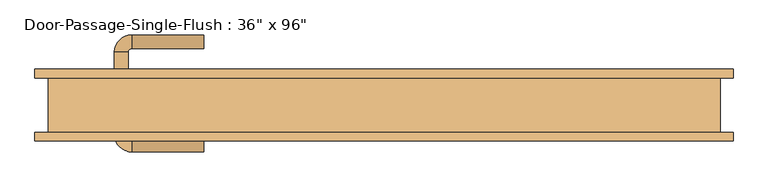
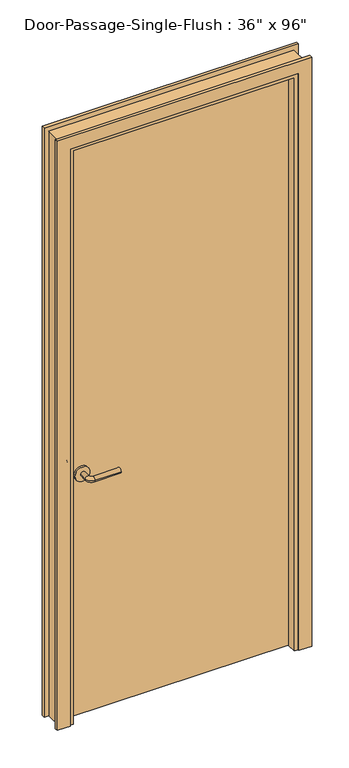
"""IFC4 building model written with IfcOpenShell, lengths in millimetres: door geometry."""

from ifc_helpers import new_model, si_unit, point, frame, frame_2d, origin, origin_with_axes, place, context, project, spatial, polyline, circle_curve, ellipse_curve, trimmed, segment, composite_curve, outline, extrude, faceted_brep, source, transform, mapped, element, save
from ifc_brep_helpers import plane_surface, cylinder_surface, revolved_surface, advanced_brep


def door_979b1b8c(model_context):
    return source(origin(), model_context, "Body", "SolidModel", [
        advanced_brep(
        [(-392.190625, -6.4125, 1016.0), (-372.190625, -6.4125, 1016.0), (-372.190625, -36.4125, 1016.0), (-392.190625, -36.4125, 1016.0), (-367.190625, -41.4125, 1016.0), (-367.190625, -61.4125, 1016.0), (-262.190625, -61.4125, 1016.0), (-262.190625, -41.4125, 1016.0)],
        [
            (0, 1, circle_curve(frame((-382.190625, -6.4125, 1016.0), z_axis=(0.0, 1.0, 0.0), x_axis=(1.0, 0.0, 0.0)), 10.0)),
            (1, 0, circle_curve(frame((-382.190625, -6.4125, 1016.0), z_axis=(0.0, 1.0, 0.0), x_axis=(1.0, 0.0, 0.0)), 10.0)),
            (1, 2),
            (2, 3, circle_curve(frame((-382.190625, -36.4125, 1016.0), z_axis=(0.0, 1.0, 0.0), x_axis=(1.0, 0.0, 0.0)), 10.0)),
            (3, 0),
            (3, 2, circle_curve(frame((-382.190625, -36.4125, 1016.0), z_axis=(0.0, 1.0, 0.0), x_axis=(1.0, 0.0, 0.0)), 10.0)),
            (4, 5, circle_curve(frame((-367.190625, -51.4125, 1016.0), z_axis=(-1.0, 0.0, 0.0), x_axis=(0.0, 1.0, 0.0)), 10.0)),
            (5, 3, circle_curve(frame((-367.190625, -36.4125, 1016.0), z_axis=(0.0, 0.0, -1.0), x_axis=(-1.0, 0.0, 0.0)), 25.0)),
            (2, 4, circle_curve(frame((-367.190625, -36.4125, 1016.0), z_axis=(0.0, 0.0, 1.0), x_axis=(-1.0, 0.0, 0.0)), 5.0)),
            (5, 4, circle_curve(frame((-367.190625, -51.4125, 1016.0), z_axis=(-1.0, 0.0, 0.0), x_axis=(0.0, 1.0, 0.0)), 10.0)),
            (6, 7, circle_curve(frame((-262.190625, -51.4125, 1016.0), z_axis=(1.0, 0.0, 0.0), x_axis=(0.0, 1.0, 0.0)), 10.0)),
            (7, 6, circle_curve(frame((-262.190625, -51.4125, 1016.0), z_axis=(1.0, 0.0, 0.0), x_axis=(0.0, 1.0, 0.0)), 10.0)),
            (4, 7),
            (6, 5),
        ],
        [
            plane_surface(frame((-382.190625, -6.4125, 1016.0), z_axis=(0.0, 1.0, 0.0), x_axis=(0.0, 0.0, 1.0))),
            cylinder_surface(frame((-382.190625, -6.4125, 1016.0), z_axis=(0.0, 1.0, 0.0), x_axis=(1.0, 0.0, 0.0)), 10.0),
            revolved_surface(trimmed(ellipse_curve(frame((-382.190625, -36.4125, 1016.0), z_axis=(0.0, -1.0, 0.0), x_axis=(1.0, 0.0, 0.0)), 10.0, 10.0), [point((-392.190625, -36.4125, 1016.0))], [point((-372.190625, -36.4125, 1016.0))], True, "CARTESIAN"), (-367.190625, -36.4125, 1016.0), (0.0, 0.0, -1.0)),
            revolved_surface(trimmed(ellipse_curve(frame((-382.190625, -36.4125, 1016.0), z_axis=(0.0, -1.0, 0.0), x_axis=(1.0, 0.0, 0.0)), 10.0, 10.0), [point((-372.190625, -36.4125, 1016.0))], [point((-392.190625, -36.4125, 1016.0))], True, "CARTESIAN"), (-367.190625, -36.4125, 1016.0), (0.0, 0.0, -1.0)),
            plane_surface(frame((-262.190625, -51.4125, 1016.0), z_axis=(1.0, 0.0, 0.0), x_axis=(0.0, 0.0, 1.0))),
            cylinder_surface(frame((-367.190625, -51.4125, 1016.0), z_axis=(-1.0, 0.0, 0.0), x_axis=(0.0, 1.0, 0.0)), 10.0),
        ],
        [
            (0, [[1, 2]]),
            (1, [[3, 4, 5, -2]]),
            (1, [[-5, 6, -3, -1]]),
            (2, [[7, 8, -4, 9]]),
            (3, [[10, -9, -6, -8]]),
            (4, [[11, 12]]),
            (5, [[13, -11, 14, -7]]),
            (5, [[-14, -12, -13, -10]]),
        ],
    ),
        extrude(outline(composite_curve([segment(trimmed(circle_curve(frame_2d((1016.0, -384.690625)), 30.0), [point((1016.0, -414.690625))], [point((1016.0, -354.690625))], False, "CARTESIAN"), True, "CONTINUOUS"), segment(trimmed(circle_curve(frame_2d((1016.0, -384.690625)), 30.0), [point((1016.0, -354.690625))], [point((1016.0, -414.690625))], False, "CARTESIAN"), True, "CONTINUOUS")], self_intersect=False)), frame((0.0, -6.4125, 0.0), z_axis=(0.0, 1.0, 0.0), x_axis=(0.0, 0.0, 1.0)), (0.0, 0.0, 1.0), 8.0),
        advanced_brep(
        [(-392.190625, 54.0375, 1016.0), (-372.190625, 54.0375, 1016.0), (-392.190625, 84.0375, 1016.0), (-372.190625, 84.0375, 1016.0), (-367.190625, 89.0375, 1016.0), (-367.190625, 109.0375, 1016.0), (-262.190625, 109.0375, 1016.0), (-262.190625, 89.0375, 1016.0)],
        [
            (0, 1, circle_curve(frame((-382.190625, 54.0375, 1016.0), z_axis=(0.0, -1.0, 0.0), x_axis=(1.0, 0.0, 0.0)), 10.0)),
            (1, 0, circle_curve(frame((-382.190625, 54.0375, 1016.0), z_axis=(0.0, -1.0, 0.0), x_axis=(1.0, 0.0, 0.0)), 10.0)),
            (0, 2),
            (2, 3, circle_curve(frame((-382.190625, 84.0375, 1016.0), z_axis=(0.0, -1.0, 0.0), x_axis=(1.0, 0.0, 0.0)), 10.0)),
            (3, 1),
            (3, 2, circle_curve(frame((-382.190625, 84.0375, 1016.0), z_axis=(0.0, -1.0, 0.0), x_axis=(1.0, 0.0, 0.0)), 10.0)),
            (4, 3, circle_curve(frame((-367.190625, 84.0375, 1016.0), z_axis=(0.0, 0.0, 1.0), x_axis=(-1.0, 0.0, 0.0)), 5.0)),
            (2, 5, circle_curve(frame((-367.190625, 84.0375, 1016.0), z_axis=(0.0, 0.0, -1.0), x_axis=(-1.0, 0.0, 0.0)), 25.0)),
            (5, 4, circle_curve(frame((-367.190625, 99.0375, 1016.0), z_axis=(-1.0, 0.0, 0.0), x_axis=(0.0, -1.0, 0.0)), 10.0)),
            (4, 5, circle_curve(frame((-367.190625, 99.0375, 1016.0), z_axis=(-1.0, 0.0, 0.0), x_axis=(0.0, -1.0, 0.0)), 10.0)),
            (6, 7, circle_curve(frame((-262.190625, 99.0375, 1016.0), z_axis=(1.0, 0.0, 0.0), x_axis=(0.0, -1.0, 0.0)), 10.0)),
            (7, 6, circle_curve(frame((-262.190625, 99.0375, 1016.0), z_axis=(1.0, 0.0, 0.0), x_axis=(0.0, -1.0, 0.0)), 10.0)),
            (5, 6),
            (7, 4),
        ],
        [
            plane_surface(frame((-382.190625, 54.0375, 1016.0), z_axis=(0.0, -1.0, 0.0), x_axis=(0.0, 0.0, 1.0))),
            cylinder_surface(frame((-382.190625, 54.0375, 1016.0), z_axis=(0.0, -1.0, 0.0), x_axis=(1.0, 0.0, 0.0)), 10.0),
            revolved_surface(trimmed(ellipse_curve(frame((-382.190625, 84.0375, 1016.0), z_axis=(0.0, -1.0, 0.0), x_axis=(1.0, 0.0, 0.0)), 10.0, 10.0), [point((-392.190625, 84.0375, 1016.0))], [point((-372.190625, 84.0375, 1016.0))], True, "CARTESIAN"), (-367.190625, 84.0375, 1016.0), (0.0, 0.0, -1.0)),
            revolved_surface(trimmed(ellipse_curve(frame((-382.190625, 84.0375, 1016.0), z_axis=(0.0, -1.0, 0.0), x_axis=(1.0, 0.0, 0.0)), 10.0, 10.0), [point((-372.190625, 84.0375, 1016.0))], [point((-392.190625, 84.0375, 1016.0))], True, "CARTESIAN"), (-367.190625, 84.0375, 1016.0), (0.0, 0.0, -1.0)),
            plane_surface(frame((-262.190625, 99.0375, 1016.0), z_axis=(1.0, 0.0, 0.0), x_axis=(0.0, 0.0, 1.0))),
            cylinder_surface(frame((-367.190625, 99.0375, 1016.0), z_axis=(-1.0, 0.0, 0.0), x_axis=(0.0, -1.0, 0.0)), 10.0),
        ],
        [
            (0, [[1, 2]]),
            (1, [[-1, 3, 4, 5]]),
            (1, [[-2, -5, 6, -3]]),
            (2, [[7, -4, 8, 9]]),
            (3, [[-8, -6, -7, 10]]),
            (4, [[11, 12]]),
            (5, [[-9, 13, -12, 14]]),
            (5, [[-10, -14, -11, -13]]),
        ],
    ),
        extrude(outline(composite_curve([segment(trimmed(circle_curve(frame_2d((1016.0, -384.690625)), 30.0), [point((1016.0, -414.690625))], [point((1016.0, -354.690625))], False, "CARTESIAN"), True, "CONTINUOUS"), segment(trimmed(circle_curve(frame_2d((1016.0, -384.690625)), 30.0), [point((1016.0, -354.690625))], [point((1016.0, -414.690625))], False, "CARTESIAN"), True, "CONTINUOUS")], self_intersect=False)), frame((0.0, 46.0375, 0.0), z_axis=(0.0, 1.0, 0.0), x_axis=(0.0, 0.0, 1.0)), (0.0, 0.0, 1.0), 8.0),
        faceted_brep([(457.2, 58.7375, 0.0), (508.0, 58.7375, 0.0), (508.0, 46.0375, 0.0), (488.95, 46.0375, 0.0), (488.95, -33.3375, 0.0), (508.0, -33.3375, 0.0), (508.0, -46.0375, 0.0), (457.2, -46.0375, 0.0), (457.2, -41.275, 0.0), (441.325, -41.275, 0.0), (441.325, -3.175, 0.0), (457.2, -3.175, 0.0), (457.2, 58.7375, 2438.4), (-457.2, 58.7375, 2438.4), (-457.2, 58.7375, 0.0), (-508.0, 58.7375, 0.0), (-508.0, 58.7375, 2489.2), (508.0, 58.7375, 2489.2), (508.0, 46.0375, 2489.2), (-508.0, 46.0375, 2489.2), (-508.0, 46.0375, 0.0), (-488.95, 46.0375, 0.0), (-488.95, 46.0375, 2470.15), (488.95, 46.0375, 2470.15), (488.95, -33.3375, 2470.15), (-488.95, -33.3375, 2470.15), (-488.95, -33.3375, 0.0), (-508.0, -33.3375, 0.0), (-508.0, -33.3375, 2489.2), (508.0, -33.3375, 2489.2), (508.0, -46.0375, 2489.2), (-508.0, -46.0375, 2489.2), (-508.0, -46.0375, 0.0), (-457.2, -46.0375, 0.0), (-457.2, -46.0375, 2438.4), (457.2, -46.0375, 2438.4), (457.2, -41.275, 2438.4), (-457.2, -41.275, 2438.4), (-457.2, -41.275, 0.0), (-441.325, -41.275, 0.0), (-441.325, -41.275, 2422.525), (441.325, -41.275, 2422.525), (441.325, -3.175, 2422.525), (-441.325, -3.175, 2422.525), (-441.325, -3.175, 0.0), (-457.2, -3.175, 0.0), (-457.2, -3.175, 2438.4), (457.2, -3.175, 2438.4)], [[[0, 1, 2, 3, 4, 5, 6, 7, 8, 9, 10, 11]], [[1, 0, 12, 13, 14, 15, 16, 17]], [[2, 1, 17, 18]], [[3, 2, 18, 19, 20, 21, 22, 23]], [[4, 3, 23, 24]], [[5, 4, 24, 25, 26, 27, 28, 29]], [[6, 5, 29, 30]], [[7, 6, 30, 31, 32, 33, 34, 35]], [[8, 7, 35, 36]], [[9, 8, 36, 37, 38, 39, 40, 41]], [[10, 9, 41, 42]], [[11, 10, 42, 43, 44, 45, 46, 47]], [[0, 11, 47, 12]], [[18, 17, 16, 19]], [[24, 23, 22, 25]], [[30, 29, 28, 31]], [[36, 35, 34, 37]], [[42, 41, 40, 43]], [[12, 47, 46, 13]], [[14, 45, 44, 39, 38, 33, 32, 27, 26, 21, 20, 15]], [[19, 16, 15, 20]], [[25, 22, 21, 26]], [[31, 28, 27, 32]], [[37, 34, 33, 38]], [[43, 40, 39, 44]], [[13, 46, 45, 14]]]),
        extrude(outline(polyline([(457.2, 1.5875), (-457.2, 1.5875), (-457.2, 46.0375), (457.2, 46.0375), (457.2, 1.5875)])), origin_with_axes(), (0.0, 0.0, 1.0), 2438.4),
    ])


if __name__ == "__main__":
    model = new_model("IFC4")
    model_context = context("Model", 3, world=origin())
    ifc_project = project(units=[si_unit("LENGTHUNIT", "METRE", prefix="MILLI")], contexts=[model_context])
    site = spatial("IfcSite", under=ifc_project)
    building = spatial("IfcBuilding", under=site)
    placement = place(None, origin())
    door_shape = door_979b1b8c(model_context)
    element("IfcDoor", 1, ObjectType="Door-Passage-Single-Flush : 36\" x 96\"", at=placement, inside=building, context=model_context, shape_type="MappedRepresentation", body=[
        mapped(door_shape, transform((0.0, 0.0, 0.0), x_axis=(1.0, 0.0, 0.0), y_axis=(0.0, 1.0, 0.0), z_axis=(0.0, 0.0, 1.0))),
    ])
    save(model, "model.ifc")
